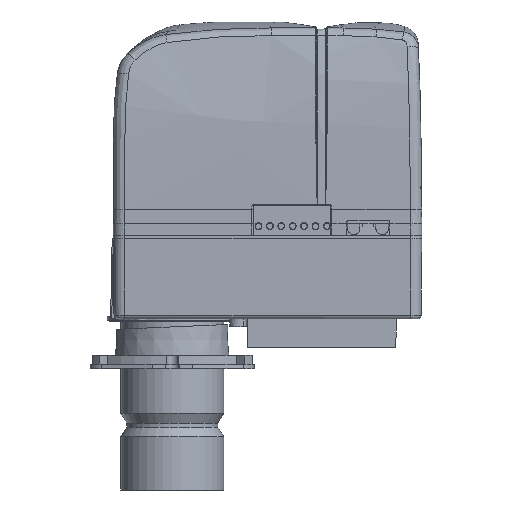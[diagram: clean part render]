
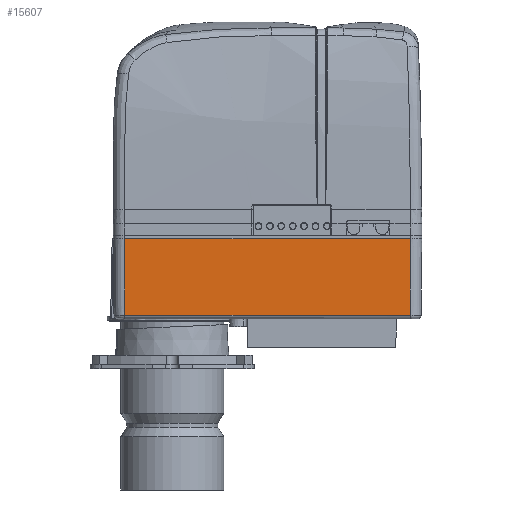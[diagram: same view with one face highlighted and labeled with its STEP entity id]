
A CAD part, left-side view. The second image highlights one B-rep face of the part: STEP entity #15607.
In plain terms, the highlighted planar face has unit normal (-1, 0, -0.009).
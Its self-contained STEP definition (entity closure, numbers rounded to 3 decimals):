
#1555 = VECTOR ( 'NONE', #4009, 1000. ) ;
#2724 = ORIENTED_EDGE ( 'NONE', *, *, #17574, .F. ) ;
#4009 = DIRECTION ( 'NONE',  ( 0., 1., 0. ) ) ;
#4453 = VERTEX_POINT ( 'NONE', #52477 ) ;
#5114 = ORIENTED_EDGE ( 'NONE', *, *, #26498, .F. ) ;
#8115 = EDGE_CURVE ( 'NONE', #65872, #4453, #45578, .T. ) ;
#9420 = PLANE ( 'NONE',  #29835 ) ;
#9718 = LINE ( 'NONE', #15938, #22270 ) ;
#14087 = DIRECTION ( 'NONE',  ( 0., -1., 0. ) ) ;
#14308 = CARTESIAN_POINT ( 'NONE',  ( -122.115, 122.451, -496.728 ) ) ;
#14781 = DIRECTION ( 'NONE',  ( 0.009, 0., -1. ) ) ;
#14902 = ORIENTED_EDGE ( 'NONE', *, *, #8115, .F. ) ;
#15607 = ADVANCED_FACE ( 'NONE', ( #36004 ), #9420, .F. ) ;
#15938 = CARTESIAN_POINT ( 'NONE',  ( -122.7, -127.95, -429.699 ) ) ;
#16715 = VERTEX_POINT ( 'NONE', #54859 ) ;
#17574 = EDGE_CURVE ( 'NONE', #16715, #65872, #36765, .T. ) ;
#21721 = DIRECTION ( 'NONE',  ( -0.009, 0., 1. ) ) ;
#22270 = VECTOR ( 'NONE', #64074, 1000. ) ;
#22531 = VECTOR ( 'NONE', #21721, 1000. ) ;
#23952 = CARTESIAN_POINT ( 'NONE',  ( -122.115, -127.95, -496.728 ) ) ;
#26498 = EDGE_CURVE ( 'NONE', #4453, #30717, #9718, .T. ) ;
#29701 = VECTOR ( 'NONE', #14087, 1000. ) ;
#29835 = AXIS2_PLACEMENT_3D ( 'NONE', #36057, #46814, #14781 ) ;
#30717 = VERTEX_POINT ( 'NONE', #23952 ) ;
#31024 = CARTESIAN_POINT ( 'NONE',  ( -122.7, 122.45, -429.7 ) ) ;
#34031 = EDGE_LOOP ( 'NONE', ( #2724, #37724, #5114, #14902 ) ) ;
#35011 = LINE ( 'NONE', #14308, #1555 ) ;
#36004 = FACE_OUTER_BOUND ( 'NONE', #34031, .T. ) ;
#36057 = CARTESIAN_POINT ( 'NONE',  ( -122.7, 122.451, -429.699 ) ) ;
#36765 = LINE ( 'NONE', #64038, #22531 ) ;
#37724 = ORIENTED_EDGE ( 'NONE', *, *, #40732, .F. ) ;
#40732 = EDGE_CURVE ( 'NONE', #30717, #16715, #35011, .T. ) ;
#45578 = LINE ( 'NONE', #46340, #29701 ) ;
#46340 = CARTESIAN_POINT ( 'NONE',  ( -122.7, 122.451, -429.7 ) ) ;
#46814 = DIRECTION ( 'NONE',  ( 1., 0., 0.009 ) ) ;
#52477 = CARTESIAN_POINT ( 'NONE',  ( -122.7, -127.95, -429.7 ) ) ;
#54859 = CARTESIAN_POINT ( 'NONE',  ( -122.115, 122.45, -496.728 ) ) ;
#64038 = CARTESIAN_POINT ( 'NONE',  ( -122.7, 122.45, -429.699 ) ) ;
#64074 = DIRECTION ( 'NONE',  ( 0.009, 0., -1. ) ) ;
#65872 = VERTEX_POINT ( 'NONE', #31024 ) ;
